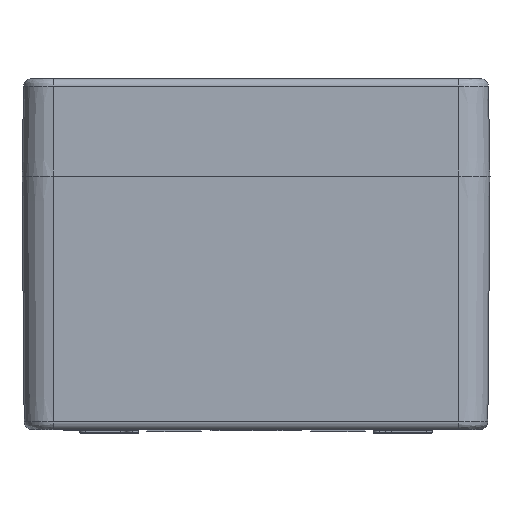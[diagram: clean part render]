
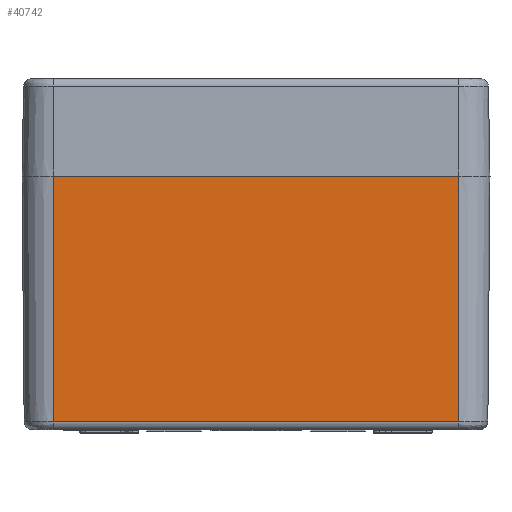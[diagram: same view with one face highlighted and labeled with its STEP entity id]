
A CAD part, left-side view. The second image highlights one B-rep face of the part: STEP entity #40742.
In plain terms, the highlighted planar face has unit normal (-1, 0, -0.009).
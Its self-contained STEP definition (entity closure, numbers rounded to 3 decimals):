
#586 = AXIS2_PLACEMENT_3D ( 'NONE', #17495, #24578, #11116 ) ;
#828 = DIRECTION ( 'NONE',  ( 0., -1., 0. ) ) ;
#932 = EDGE_LOOP ( 'NONE', ( #12683, #7779, #42654, #25763 ) ) ;
#1454 = DIRECTION ( 'NONE',  ( 0.009, 0., -1. ) ) ;
#3703 = EDGE_CURVE ( 'NONE', #27077, #21441, #36486, .T. ) ;
#4015 = LINE ( 'NONE', #18245, #5624 ) ;
#5624 = VECTOR ( 'NONE', #1454, 1000. ) ;
#5901 = LINE ( 'NONE', #14784, #11648 ) ;
#7779 = ORIENTED_EDGE ( 'NONE', *, *, #25389, .F. ) ;
#10348 = DIRECTION ( 'NONE',  ( -0.009, 0., 1. ) ) ;
#10877 = EDGE_CURVE ( 'NONE', #28715, #27077, #31920, .T. ) ;
#11116 = DIRECTION ( 'NONE',  ( 0.009, 0., -1. ) ) ;
#11648 = VECTOR ( 'NONE', #828, 1000. ) ;
#12683 = ORIENTED_EDGE ( 'NONE', *, *, #38552, .F. ) ;
#12776 = CARTESIAN_POINT ( 'NONE',  ( -110., 52., 0. ) ) ;
#12988 = CARTESIAN_POINT ( 'NONE',  ( -110., 52., 0. ) ) ;
#14697 = CARTESIAN_POINT ( 'NONE',  ( -110., -52., 0. ) ) ;
#14784 = CARTESIAN_POINT ( 'NONE',  ( -110., 0., 0. ) ) ;
#17495 = CARTESIAN_POINT ( 'NONE',  ( -110., 0., 0. ) ) ;
#18245 = CARTESIAN_POINT ( 'NONE',  ( -110., -52., 0. ) ) ;
#20322 = DIRECTION ( 'NONE',  ( 0., 1., 0. ) ) ;
#21441 = VERTEX_POINT ( 'NONE', #12776 ) ;
#24578 = DIRECTION ( 'NONE',  ( 1., 0., 0.009 ) ) ;
#25389 = EDGE_CURVE ( 'NONE', #21441, #27041, #5901, .T. ) ;
#25763 = ORIENTED_EDGE ( 'NONE', *, *, #10877, .F. ) ;
#26671 = VECTOR ( 'NONE', #20322, 1000. ) ;
#27041 = VERTEX_POINT ( 'NONE', #14697 ) ;
#27077 = VERTEX_POINT ( 'NONE', #29191 ) ;
#28715 = VERTEX_POINT ( 'NONE', #29885 ) ;
#29191 = CARTESIAN_POINT ( 'NONE',  ( -109.45, 52., -63.017 ) ) ;
#29885 = CARTESIAN_POINT ( 'NONE',  ( -109.45, -52., -63.017 ) ) ;
#31920 = LINE ( 'NONE', #40442, #26671 ) ;
#34260 = PLANE ( 'NONE',  #586 ) ;
#35485 = VECTOR ( 'NONE', #10348, 1000. ) ;
#36486 = LINE ( 'NONE', #12988, #35485 ) ;
#38552 = EDGE_CURVE ( 'NONE', #27041, #28715, #4015, .T. ) ;
#40442 = CARTESIAN_POINT ( 'NONE',  ( -109.45, 0., -63.017 ) ) ;
#40742 = ADVANCED_FACE ( 'NONE', ( #42895 ), #34260, .F. ) ;
#42654 = ORIENTED_EDGE ( 'NONE', *, *, #3703, .F. ) ;
#42895 = FACE_OUTER_BOUND ( 'NONE', #932, .T. ) ;
